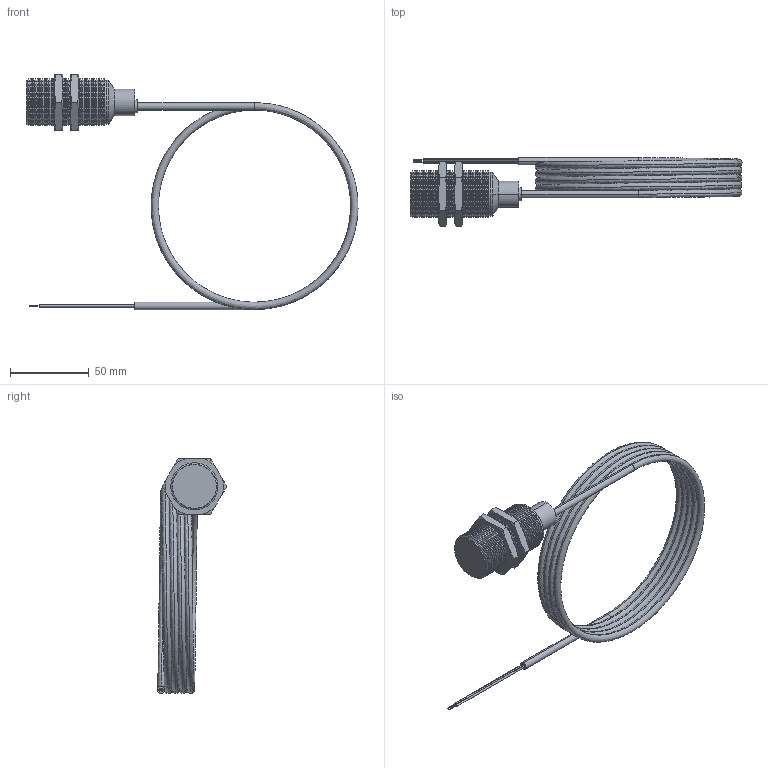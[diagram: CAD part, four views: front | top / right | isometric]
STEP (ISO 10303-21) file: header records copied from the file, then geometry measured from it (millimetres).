
FILE_DESCRIPTION (( 'STEP AP203' ), '1' );
FILE_NAME ('90-XXXX-032.STEP', '2015-10-28T13:22:16', ( 'Sam' ), ( 'Spade' ), 'SwSTEP 2.0', 'SolidWorks 2002296', '' );
FILE_SCHEMA (( 'CONFIG_CONTROL_DESIGN' ));
Length unit declared in the file: inch
Products named in the file (14): 90-XXXX-032; Imported315; Imported318; Imported320; Imported313; Imported321; Imported312; 49-9064; Imported319; Imported316; Imported314; Imported317; Imported322; Imported323
Assembly tree (13 placements, depth 2):
  90-XXXX-032
    Imported313
    Imported317
    Imported318
    Imported315
    Imported312
    Imported319
    Imported320
    Imported321
    Imported316
    Imported323
    Imported322
    49-9064
    Imported314
Bounding box: 211.3 x 44.19 x 149.71 mm (x, y, z)
Volume: 77816.9 mm3; surface area: 47765.6 mm2
Topology: 13 solids, 13 shells, 379 faces, 784 edges, 444 vertices
Faces by surface type: cone 176, cylinder 100, bspline 52, plane 51
Entity records: 13774 total; most frequent: CARTESIAN_POINT 4363, DIRECTION 1774, ORIENTED_EDGE 1568, EDGE_CURVE 784, AXIS2_PLACEMENT_3D 731, VERTEX_POINT 444, EDGE_LOOP 398, CIRCLE 388
